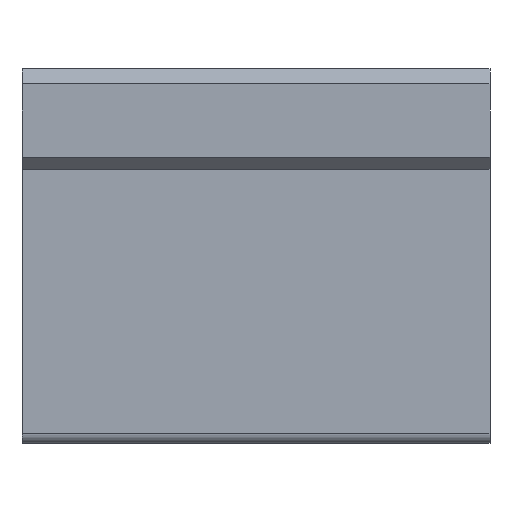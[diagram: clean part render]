
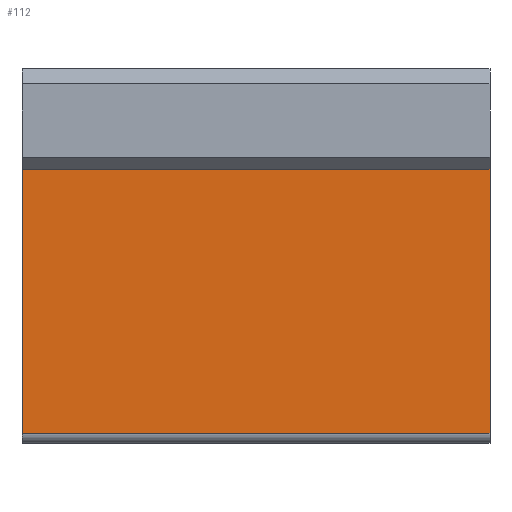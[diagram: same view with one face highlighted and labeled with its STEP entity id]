
A CAD part, front view. The second image highlights one B-rep face of the part: STEP entity #112.
In plain terms, the highlighted planar face has unit normal (0, -1, 0).
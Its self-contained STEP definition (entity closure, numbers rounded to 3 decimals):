
#112 = ADVANCED_FACE( '', ( #249 ), #250, .T. );
#249 = FACE_OUTER_BOUND( '', #402, .T. );
#250 = PLANE( '', #403 );
#402 = EDGE_LOOP( '', ( #647, #648, #649, #650 ) );
#403 = AXIS2_PLACEMENT_3D( '', #651, #652, #653 );
#647 = ORIENTED_EDGE( '', *, *, #850, .T. );
#648 = ORIENTED_EDGE( '', *, *, #878, .T. );
#649 = ORIENTED_EDGE( '', *, *, #904, .T. );
#650 = ORIENTED_EDGE( '', *, *, #905, .F. );
#651 = CARTESIAN_POINT( '', ( 0., -33.25, -23. ) );
#652 = DIRECTION( '', ( 0., -1., 0. ) );
#653 = DIRECTION( '', ( 1., 0., 0. ) );
#850 = EDGE_CURVE( '', #1010, #1008, #1011, .T. );
#878 = EDGE_CURVE( '', #1008, #1050, #1052, .T. );
#904 = EDGE_CURVE( '', #1050, #1087, #1088, .T. );
#905 = EDGE_CURVE( '', #1010, #1087, #1089, .T. );
#1008 = VERTEX_POINT( '', #1217 );
#1010 = VERTEX_POINT( '', #1219 );
#1011 = LINE( '', #1220, #1221 );
#1050 = VERTEX_POINT( '', #1277 );
#1052 = LINE( '', #1279, #1280 );
#1087 = VERTEX_POINT( '', #1324 );
#1088 = LINE( '', #1325, #1326 );
#1089 = LINE( '', #1327, #1328 );
#1217 = CARTESIAN_POINT( '', ( 0., -33.25, -21.5 ) );
#1219 = CARTESIAN_POINT( '', ( 0., -33.25, 18. ) );
#1220 = CARTESIAN_POINT( '', ( 0., -33.25, 18. ) );
#1221 = VECTOR( '', #1449, 1000. );
#1277 = CARTESIAN_POINT( '', ( 70., -33.25, -21.5 ) );
#1279 = CARTESIAN_POINT( '', ( 0., -33.25, -21.5 ) );
#1280 = VECTOR( '', #1476, 1000. );
#1324 = CARTESIAN_POINT( '', ( 70., -33.25, 18. ) );
#1325 = CARTESIAN_POINT( '', ( 70., -33.25, -23. ) );
#1326 = VECTOR( '', #1501, 1000. );
#1327 = CARTESIAN_POINT( '', ( 0., -33.25, 18. ) );
#1328 = VECTOR( '', #1502, 1000. );
#1449 = DIRECTION( '', ( 0., 0., -1. ) );
#1476 = DIRECTION( '', ( 1., 0., 0. ) );
#1501 = DIRECTION( '', ( 0., 0., 1. ) );
#1502 = DIRECTION( '', ( 1., 0., 0. ) );
